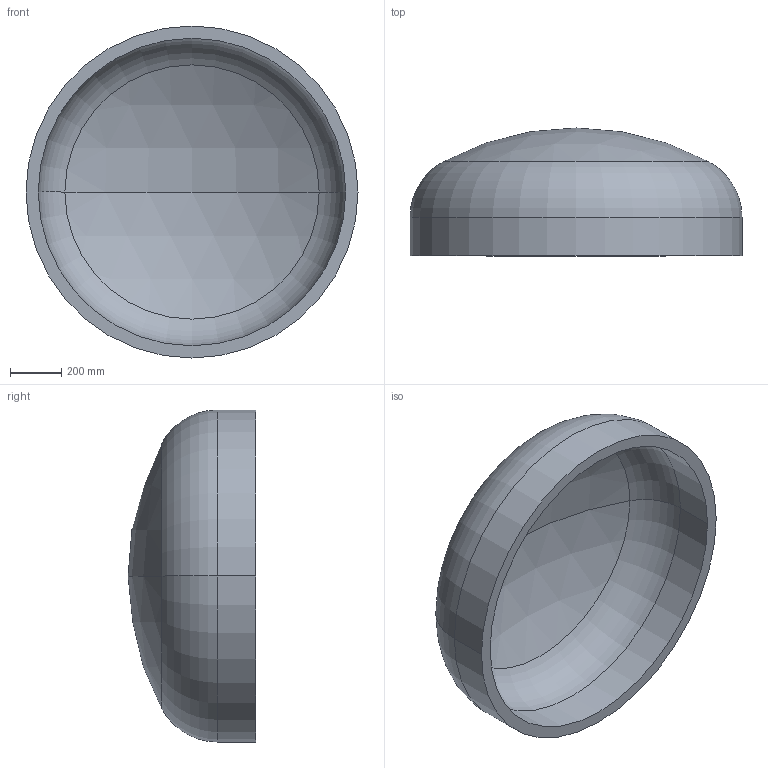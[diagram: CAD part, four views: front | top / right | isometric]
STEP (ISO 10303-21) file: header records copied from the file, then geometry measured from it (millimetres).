
FILE_DESCRIPTION (( 'STEP AP203' ), '1' );
FILE_NAME ('DIN 28013 Korbbogenform_-_Boden DIN 28013 - 1300 x 150 - I - s=48.step', '2016-07-01T09:53:55', ( '' ), ( '' ), 'SwSTEP 2.0', 'SolidWorks 2013', '' );
FILE_SCHEMA (( 'CONFIG_CONTROL_DESIGN' ));
Length unit declared in the file: millimetre
Products named in the file (1): DIN 28013 Korbbogenform_-_Boden DIN 28013 - 1300 x 150 - I - s=48
Bounding box: 1300 x 500.44 x 1300 mm (x, y, z)
Volume: 112409763.2 mm3; surface area: 4877361.6 mm2
Topology: 1 solids, 1 shells, 13 faces, 24 edges, 14 vertices
Faces by surface type: torus 4, cylinder 4, sphere 4, plane 1
Entity records: 407 total; most frequent: DIRECTION 72, CARTESIAN_POINT 52, ORIENTED_EDGE 48, AXIS2_PLACEMENT_3D 34, EDGE_CURVE 24, CIRCLE 20, EDGE_LOOP 14, VERTEX_POINT 14
